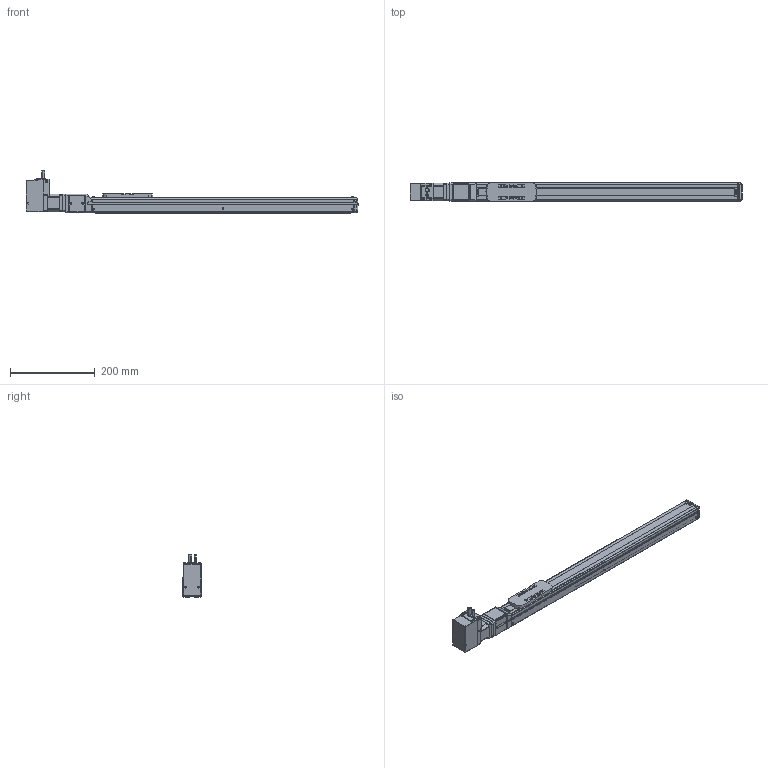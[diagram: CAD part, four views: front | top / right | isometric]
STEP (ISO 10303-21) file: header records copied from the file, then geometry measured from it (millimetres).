
FILE_DESCRIPTION(('FreeCAD Model'),'2;1');
FILE_NAME('Open CASCADE Shape Model','2023-08-01T17:12:46',('Author'),( ''),'Open CASCADE STEP processor 7.5','FreeCAD','Unknown');
FILE_SCHEMA(('AUTOMOTIVE_DESIGN { 1 0 10303 214 1 1 1 1 }'));
Length unit declared in the file: millimetre
Products named in the file (20): RCB0411; Shapes; Shapes001; Shapes002; Shapes003; Shapes004; Shapes005; Shapes006; Shapes007; Shapes008; Shapes009; Shapes010; Shapes011; Shapes012; Shapes013; KSF4-10-0450-0-AR(0); KSF4---(Cover); KSF4-AR---(Motor bracket); KSF4-10-0450---(slider); KSF4-10-0450-0-AR-(04500ARNo0)---(body)
Assembly tree (19 placements, depth 3):
  RCB0411
    Shapes
    Shapes001
    Shapes002
    Shapes003
    Shapes004
    Shapes005
    Shapes006
    Shapes007
    Shapes008
    Shapes009
    Shapes010
    Shapes011
    Shapes012
    Shapes013
    KSF4-10-0450-0-AR(0)
      KSF4---(Cover)
      KSF4-AR---(Motor bracket)
      KSF4-10-0450---(slider)
      KSF4-10-0450-0-AR-(04500ARNo0)---(body)
Bounding box: 782 x 45.4 x 99.34 mm (x, y, z)
Volume: 1265047.4 mm3; surface area: 243233.5 mm2
Topology: 18 solids, 18 shells, 1253 faces, 3248 edges, 2118 vertices
Faces by surface type: plane 683, cylinder 424, cone 66, torus 51, bspline 19, revolution 6, sphere 4
Full cylindrical faces by diameter (mm): 2.113 x8, 2.459 x3, 3 x6, 3.242 x4, 3.4 x14, 4 x3, 4.5 x2, 5.5 x8, 6 x1, 6.5 x16, 8 x1, 12 x1, 22 x1, 28 x1, 30 x2
Entity records: 92166 total; most frequent: CARTESIAN_POINT 26636, DIRECTION 12315, LINE 7295, VECTOR 7295, ORIENTED_EDGE 6460, PCURVE 6460, DEFINITIONAL_REPRESENTATION 6460, EDGE_CURVE 3230
